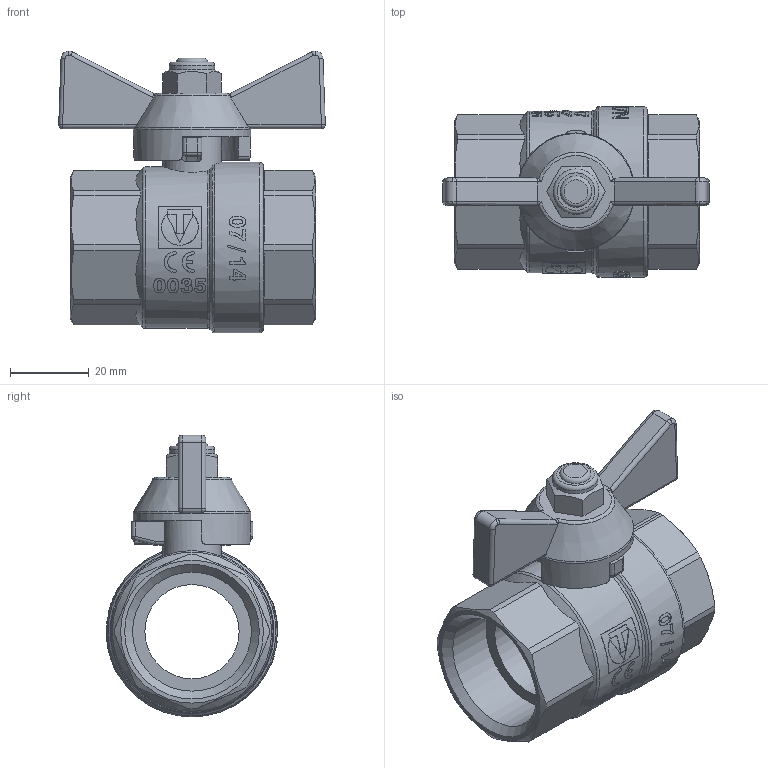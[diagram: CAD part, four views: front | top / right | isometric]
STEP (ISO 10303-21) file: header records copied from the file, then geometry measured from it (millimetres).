
FILE_DESCRIPTION(('TFLEX Exchange Step'),'2;1');
FILE_NAME('Ball valve DN25, 1 VT.217.N.06 Valtec.stp', '2023-09-12T15:25:10+03:00',('denis'),('Unknown organisation'),'TFLEX Exchange 2023.0','T-FLEX CAD','Unknown authorisation');
FILE_SCHEMA( ('AUTOMOTIVE_DESIGN { 1 0 10303 214 1 1 1 1 }') );
Length unit declared in the file: millimetre
Products named in the file (1): Nodes
Bounding box: 67.93 x 43.65 x 71.81 mm (x, y, z)
Volume: 56748.6 mm3; surface area: 20461.6 mm2
Topology: 3 solids, 3 shells, 521 faces, 1383 edges, 903 vertices
Faces by surface type: plane 205, bspline 175, cylinder 104, torus 18, cone 11, sphere 8
Full cylindrical faces by diameter (mm): 11.6 x1, 14.932 x1, 24 x1, 30 x1, 30.3 x2, 41.177 x1, 43.45 x1
Entity records: 22615 total; most frequent: CARTESIAN_POINT 11113, ORIENTED_EDGE 2750, DIRECTION 1768, EDGE_CURVE 1375, VERTEX_POINT 903, AXIS2_PLACEMENT_3D 673, B_SPLINE_CURVE_WITH_KNOTS 625, EDGE_LOOP 566
